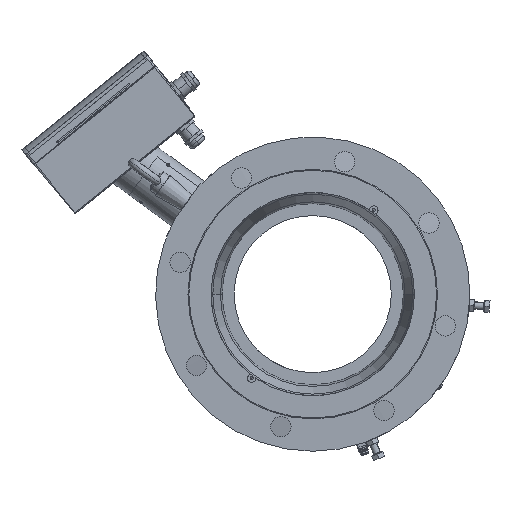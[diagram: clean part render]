
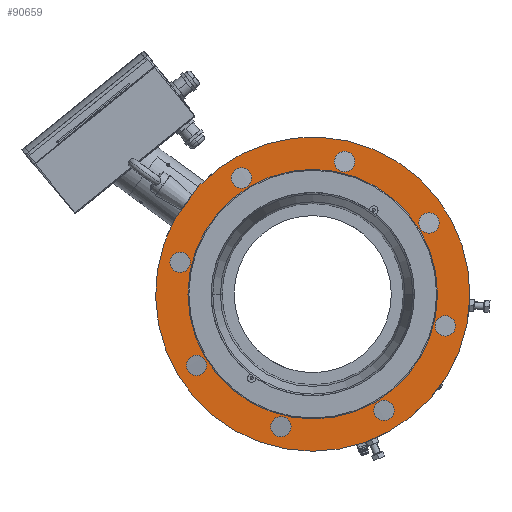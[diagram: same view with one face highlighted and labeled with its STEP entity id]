
A CAD part, left-side view. The second image highlights one B-rep face of the part: STEP entity #90659.
In plain terms, the highlighted planar face has unit normal (-1, 0, 0).
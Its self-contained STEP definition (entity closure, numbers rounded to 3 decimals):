
#21206=CARTESIAN_POINT('',(-297.,0.,0.));
#21207=DIRECTION('',(-1.,0.,0.));
#21208=DIRECTION('',(0.,0.88,0.475));
#21209=AXIS2_PLACEMENT_3D('',#21206,#21207,#21208);
#21336=DIRECTION('',(0.,-0.588,0.809));
#21337=VECTOR('',#21336,45.067);
#21338=CARTESIAN_POINT('',(-297.,149.564,80.812));
#21339=LINE('4554',#21338,#21337);
#21343=CARTESIAN_POINT('',(-297.,0.,0.));
#21344=DIRECTION('',(-1.,0.,0.));
#21345=DIRECTION('',(0.,1.,0.));
#21346=AXIS2_PLACEMENT_3D('',#21343,#21344,#21345);
#21351=CARTESIAN_POINT('',(-297.,0.,0.));
#21352=DIRECTION('',(1.,0.,0.));
#21353=DIRECTION('',(0.,1.,0.));
#21354=AXIS2_PLACEMENT_3D('',#21351,#21352,#21353);
#21359=CARTESIAN_POINT('',(-297.,143.425,34.433));
#21360=DIRECTION('',(1.,0.,0.));
#21361=DIRECTION('',(0.,1.,0.));
#21362=AXIS2_PLACEMENT_3D('',#21359,#21360,#21361);
#21367=CARTESIAN_POINT('',(-297.,143.425,34.433));
#21368=DIRECTION('',(1.,0.,0.));
#21369=DIRECTION('',(0.,-1.,0.));
#21370=AXIS2_PLACEMENT_3D('',#21367,#21368,#21369);
#21375=CARTESIAN_POINT('',(-297.,77.069,125.764));
#21376=DIRECTION('',(1.,0.,0.));
#21377=DIRECTION('',(0.,0.707,0.707));
#21378=AXIS2_PLACEMENT_3D('',#21375,#21376,#21377);
#21383=CARTESIAN_POINT('',(-297.,77.069,125.764));
#21384=DIRECTION('',(1.,0.,0.));
#21385=DIRECTION('',(0.,-0.707,-0.707));
#21386=AXIS2_PLACEMENT_3D('',#21383,#21384,#21385);
#21391=CARTESIAN_POINT('',(-297.,-34.433,143.425));
#21392=DIRECTION('',(1.,0.,0.));
#21393=DIRECTION('',(0.,0.,1.));
#21394=AXIS2_PLACEMENT_3D('',#21391,#21392,#21393);
#21399=CARTESIAN_POINT('',(-297.,-34.433,143.425));
#21400=DIRECTION('',(1.,0.,0.));
#21401=DIRECTION('',(0.,0.,-1.));
#21402=AXIS2_PLACEMENT_3D('',#21399,#21400,#21401);
#21407=CARTESIAN_POINT('',(-297.,-125.764,77.069));
#21408=DIRECTION('',(1.,0.,0.));
#21409=DIRECTION('',(0.,-0.707,0.707));
#21410=AXIS2_PLACEMENT_3D('',#21407,#21408,#21409);
#21415=CARTESIAN_POINT('',(-297.,-125.764,77.069));
#21416=DIRECTION('',(1.,0.,0.));
#21417=DIRECTION('',(0.,0.707,-0.707));
#21418=AXIS2_PLACEMENT_3D('',#21415,#21416,#21417);
#21423=CARTESIAN_POINT('',(-297.,-143.425,-34.433));
#21424=DIRECTION('',(1.,0.,0.));
#21425=DIRECTION('',(0.,-1.,0.));
#21426=AXIS2_PLACEMENT_3D('',#21423,#21424,#21425);
#21431=CARTESIAN_POINT('',(-297.,-143.425,-34.433));
#21432=DIRECTION('',(1.,0.,0.));
#21433=DIRECTION('',(0.,1.,0.));
#21434=AXIS2_PLACEMENT_3D('',#21431,#21432,#21433);
#21439=CARTESIAN_POINT('',(-297.,-77.069,-125.764));
#21440=DIRECTION('',(1.,0.,0.));
#21441=DIRECTION('',(0.,-0.707,-0.707));
#21442=AXIS2_PLACEMENT_3D('',#21439,#21440,#21441);
#21447=CARTESIAN_POINT('',(-297.,-77.069,-125.764));
#21448=DIRECTION('',(1.,0.,0.));
#21449=DIRECTION('',(0.,0.707,0.707));
#21450=AXIS2_PLACEMENT_3D('',#21447,#21448,#21449);
#21455=CARTESIAN_POINT('',(-297.,34.433,-143.425));
#21456=DIRECTION('',(1.,0.,0.));
#21457=DIRECTION('',(0.,0.,-1.));
#21458=AXIS2_PLACEMENT_3D('',#21455,#21456,#21457);
#21463=CARTESIAN_POINT('',(-297.,34.433,-143.425));
#21464=DIRECTION('',(1.,0.,0.));
#21465=DIRECTION('',(0.,0.,1.));
#21466=AXIS2_PLACEMENT_3D('',#21463,#21464,#21465);
#21471=CARTESIAN_POINT('',(-297.,125.764,-77.069));
#21472=DIRECTION('',(1.,0.,0.));
#21473=DIRECTION('',(0.,0.707,-0.707));
#21474=AXIS2_PLACEMENT_3D('',#21471,#21472,#21473);
#21479=CARTESIAN_POINT('',(-297.,125.764,-77.069));
#21480=DIRECTION('',(1.,0.,0.));
#21481=DIRECTION('',(0.,-0.707,0.707));
#21482=AXIS2_PLACEMENT_3D('',#21479,#21480,#21481);
#66861=CARTESIAN_POINT('',(-297.,154.425,34.433));
#66862=CARTESIAN_POINT('',(-297.,132.425,34.433));
#66863=VERTEX_POINT('',#66861);
#66864=VERTEX_POINT('',#66862);
#66869=CARTESIAN_POINT('',(-297.,84.847,133.543));
#66870=CARTESIAN_POINT('',(-297.,69.29,117.986));
#66871=VERTEX_POINT('',#66869);
#66872=VERTEX_POINT('',#66870);
#66877=CARTESIAN_POINT('',(-297.,-34.433,154.425));
#66878=CARTESIAN_POINT('',(-297.,-34.433,132.425));
#66879=VERTEX_POINT('',#66877);
#66880=VERTEX_POINT('',#66878);
#66885=CARTESIAN_POINT('',(-297.,-133.543,84.847));
#66886=CARTESIAN_POINT('',(-297.,-117.986,69.29));
#66887=VERTEX_POINT('',#66885);
#66888=VERTEX_POINT('',#66886);
#66893=CARTESIAN_POINT('',(-297.,-154.425,-34.433));
#66894=CARTESIAN_POINT('',(-297.,-132.425,-34.433));
#66895=VERTEX_POINT('',#66893);
#66896=VERTEX_POINT('',#66894);
#66901=CARTESIAN_POINT('',(-297.,-84.847,-133.543));
#66902=CARTESIAN_POINT('',(-297.,-69.29,-117.986));
#66903=VERTEX_POINT('',#66901);
#66904=VERTEX_POINT('',#66902);
#66909=CARTESIAN_POINT('',(-297.,34.433,-154.425));
#66910=CARTESIAN_POINT('',(-297.,34.433,-132.425));
#66911=VERTEX_POINT('',#66909);
#66912=VERTEX_POINT('',#66910);
#66917=CARTESIAN_POINT('',(-297.,133.543,-84.847));
#66918=CARTESIAN_POINT('',(-297.,117.986,-69.29));
#66919=VERTEX_POINT('',#66917);
#66920=VERTEX_POINT('',#66918);
#67021=CARTESIAN_POINT('',(-297.,135.,0.));
#67022=VERTEX_POINT('',#67021);
#67027=CARTESIAN_POINT('',(-297.,-135.,0.));
#67028=VERTEX_POINT('',#67027);
#67217=CARTESIAN_POINT('',(-297.,149.564,80.812));
#67218=CARTESIAN_POINT('',(-297.,123.075,117.272));
#67219=VERTEX_POINT('',#67217);
#67220=VERTEX_POINT('',#67218);
#90595=CARTESIAN_POINT('',(-297.,0.,0.));
#90596=DIRECTION('',(-1.,0.,0.));
#90597=DIRECTION('',(0.,1.,0.));
#90598=AXIS2_PLACEMENT_3D('',#90595,#90596,#90597);
#90599=PLANE('441',#90598);
#90600=ORIENTED_EDGE('4559',*,*,#90572,.F.);
#90602=ORIENTED_EDGE('4554',*,*,#90601,.T.);
#90603=EDGE_LOOP('441',(#90600,#90602));
#90604=FACE_OUTER_BOUND('441',#90603,.F.);
#90606=ORIENTED_EDGE('4388',*,*,#90605,.T.);
#90608=ORIENTED_EDGE('4391',*,*,#90607,.F.);
#90609=EDGE_LOOP('441',(#90606,#90608));
#90610=FACE_BOUND('441',#90609,.F.);
#90612=ORIENTED_EDGE('4250',*,*,#90611,.F.);
#90614=ORIENTED_EDGE('4251',*,*,#90613,.F.);
#90615=EDGE_LOOP('441',(#90612,#90614));
#90616=FACE_BOUND('441',#90615,.F.);
#90618=ORIENTED_EDGE('4256',*,*,#90617,.F.);
#90620=ORIENTED_EDGE('4257',*,*,#90619,.F.);
#90621=EDGE_LOOP('441',(#90618,#90620));
#90622=FACE_BOUND('441',#90621,.F.);
#90624=ORIENTED_EDGE('4262',*,*,#90623,.F.);
#90626=ORIENTED_EDGE('4263',*,*,#90625,.F.);
#90627=EDGE_LOOP('441',(#90624,#90626));
#90628=FACE_BOUND('441',#90627,.F.);
#90630=ORIENTED_EDGE('4268',*,*,#90629,.F.);
#90632=ORIENTED_EDGE('4269',*,*,#90631,.F.);
#90633=EDGE_LOOP('441',(#90630,#90632));
#90634=FACE_BOUND('441',#90633,.F.);
#90636=ORIENTED_EDGE('4274',*,*,#90635,.F.);
#90638=ORIENTED_EDGE('4275',*,*,#90637,.F.);
#90639=EDGE_LOOP('441',(#90636,#90638));
#90640=FACE_BOUND('441',#90639,.F.);
#90642=ORIENTED_EDGE('4280',*,*,#90641,.F.);
#90644=ORIENTED_EDGE('4281',*,*,#90643,.F.);
#90645=EDGE_LOOP('441',(#90642,#90644));
#90646=FACE_BOUND('441',#90645,.F.);
#90648=ORIENTED_EDGE('4286',*,*,#90647,.F.);
#90650=ORIENTED_EDGE('4287',*,*,#90649,.F.);
#90651=EDGE_LOOP('441',(#90648,#90650));
#90652=FACE_BOUND('441',#90651,.F.);
#90654=ORIENTED_EDGE('4292',*,*,#90653,.F.);
#90656=ORIENTED_EDGE('4293',*,*,#90655,.F.);
#90657=EDGE_LOOP('441',(#90654,#90656));
#90658=FACE_BOUND('441',#90657,.F.);
#21210=CIRCLE('4559',#21209,170.);
#21347=CIRCLE('4388',#21346,135.);
#21355=CIRCLE('4391',#21354,135.);
#21363=CIRCLE('4250',#21362,11.);
#21371=CIRCLE('4251',#21370,11.);
#21379=CIRCLE('4256',#21378,11.);
#21387=CIRCLE('4257',#21386,11.);
#21395=CIRCLE('4262',#21394,11.);
#21403=CIRCLE('4263',#21402,11.);
#21411=CIRCLE('4268',#21410,11.);
#21419=CIRCLE('4269',#21418,11.);
#21427=CIRCLE('4274',#21426,11.);
#21435=CIRCLE('4275',#21434,11.);
#21443=CIRCLE('4280',#21442,11.);
#21451=CIRCLE('4281',#21450,11.);
#21459=CIRCLE('4286',#21458,11.);
#21467=CIRCLE('4287',#21466,11.);
#21475=CIRCLE('4292',#21474,11.);
#21483=CIRCLE('4293',#21482,11.);
#90572=EDGE_CURVE('4559',#67219,#67220,#21210,.T.);
#90601=EDGE_CURVE('4554',#67219,#67220,#21339,.T.);
#90605=EDGE_CURVE('4388',#67022,#67028,#21347,.T.);
#90607=EDGE_CURVE('4391',#67022,#67028,#21355,.T.);
#90611=EDGE_CURVE('4250',#66863,#66864,#21363,.T.);
#90613=EDGE_CURVE('4251',#66864,#66863,#21371,.T.);
#90617=EDGE_CURVE('4256',#66871,#66872,#21379,.T.);
#90619=EDGE_CURVE('4257',#66872,#66871,#21387,.T.);
#90623=EDGE_CURVE('4262',#66879,#66880,#21395,.T.);
#90625=EDGE_CURVE('4263',#66880,#66879,#21403,.T.);
#90629=EDGE_CURVE('4268',#66887,#66888,#21411,.T.);
#90631=EDGE_CURVE('4269',#66888,#66887,#21419,.T.);
#90635=EDGE_CURVE('4274',#66895,#66896,#21427,.T.);
#90637=EDGE_CURVE('4275',#66896,#66895,#21435,.T.);
#90641=EDGE_CURVE('4280',#66903,#66904,#21443,.T.);
#90643=EDGE_CURVE('4281',#66904,#66903,#21451,.T.);
#90647=EDGE_CURVE('4286',#66911,#66912,#21459,.T.);
#90649=EDGE_CURVE('4287',#66912,#66911,#21467,.T.);
#90653=EDGE_CURVE('4292',#66919,#66920,#21475,.T.);
#90655=EDGE_CURVE('4293',#66920,#66919,#21483,.T.);
#90659=ADVANCED_FACE('441',(#90604,#90610,#90616,#90622,#90628,#90634,#90640,
#90646,#90652,#90658),#90599,.T.);
